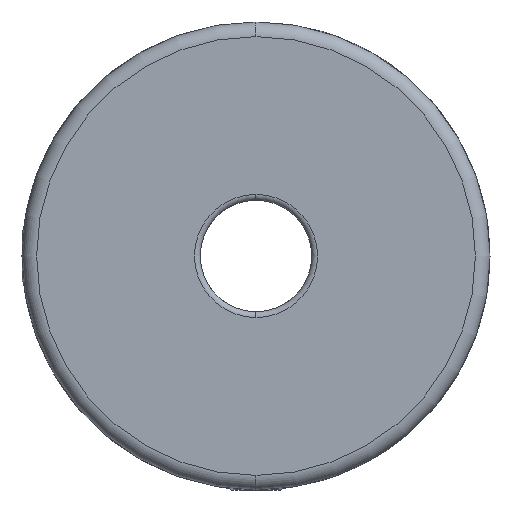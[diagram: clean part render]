
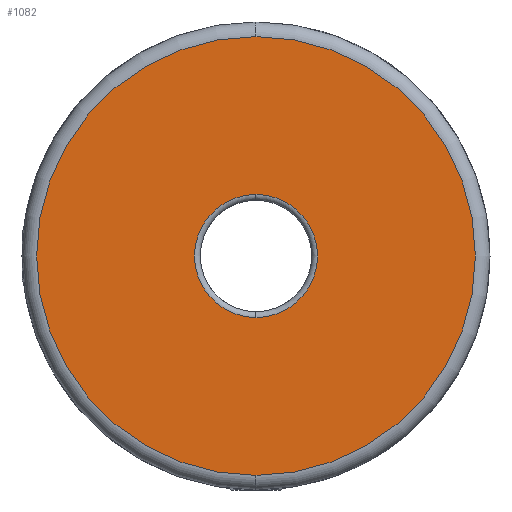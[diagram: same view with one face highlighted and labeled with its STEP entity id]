
A CAD part, left-side view. The second image highlights one B-rep face of the part: STEP entity #1082.
In plain terms, the highlighted planar face has unit normal (-1, 0, 0).
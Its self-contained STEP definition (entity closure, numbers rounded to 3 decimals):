
#2 = DIRECTION ( 'NONE',  ( -1., 0., 0. ) ) ;
#13 = CARTESIAN_POINT ( 'NONE',  ( -20.774, -10.179, 14.069 ) ) ;
#112 = FACE_OUTER_BOUND ( 'NONE', #864, .T. ) ;
#431 = AXIS2_PLACEMENT_3D ( 'NONE', #13, #2, #4391 ) ;
#441 = AXIS2_PLACEMENT_3D ( 'NONE', #2871, #4373, #4367 ) ;
#533 = VERTEX_POINT ( 'NONE', #1237 ) ;
#573 = AXIS2_PLACEMENT_3D ( 'NONE', #1023, #1019, #1000 ) ;
#629 = CARTESIAN_POINT ( 'NONE',  ( -20.774, -10.179, 32.819 ) ) ;
#864 = EDGE_LOOP ( 'NONE', ( #3762, #3590 ) ) ;
#888 = ORIENTED_EDGE ( 'NONE', *, *, #3258, .T. ) ;
#1000 = DIRECTION ( 'NONE',  ( 0., 0., -1. ) ) ;
#1019 = DIRECTION ( 'NONE',  ( 1., 0., 0. ) ) ;
#1023 = CARTESIAN_POINT ( 'NONE',  ( -20.774, -10.179, 14.069 ) ) ;
#1082 = ADVANCED_FACE ( 'NONE', ( #1616, #112 ), #3294, .F. ) ;
#1161 = EDGE_LOOP ( 'NONE', ( #3138, #888 ) ) ;
#1237 = CARTESIAN_POINT ( 'NONE',  ( -20.774, -10.179, 8.806 ) ) ;
#1312 = CIRCLE ( 'NONE', #4337, 18.75 ) ;
#1339 = CIRCLE ( 'NONE', #441, 5.263 ) ;
#1484 = VERTEX_POINT ( 'NONE', #2526 ) ;
#1572 = DIRECTION ( 'NONE',  ( 0., 0., -1. ) ) ;
#1579 = DIRECTION ( 'NONE',  ( -1., 0., 0. ) ) ;
#1583 = CARTESIAN_POINT ( 'NONE',  ( -20.774, -10.179, 14.069 ) ) ;
#1616 = FACE_BOUND ( 'NONE', #1161, .T. ) ;
#1619 = AXIS2_PLACEMENT_3D ( 'NONE', #3252, #3236, #3224 ) ;
#2141 = VERTEX_POINT ( 'NONE', #629 ) ;
#2454 = CIRCLE ( 'NONE', #431, 18.75 ) ;
#2526 = CARTESIAN_POINT ( 'NONE',  ( -20.774, -10.179, -4.681 ) ) ;
#2871 = CARTESIAN_POINT ( 'NONE',  ( -20.774, -10.179, 14.069 ) ) ;
#2996 = EDGE_CURVE ( 'NONE', #533, #3410, #3924, .T. ) ;
#3138 = ORIENTED_EDGE ( 'NONE', *, *, #2996, .T. ) ;
#3224 = DIRECTION ( 'NONE',  ( 0., 0., -1. ) ) ;
#3236 = DIRECTION ( 'NONE',  ( 1., 0., 0. ) ) ;
#3248 = EDGE_CURVE ( 'NONE', #1484, #2141, #2454, .T. ) ;
#3252 = CARTESIAN_POINT ( 'NONE',  ( -20.774, -10.179, 14.069 ) ) ;
#3258 = EDGE_CURVE ( 'NONE', #3410, #533, #1339, .T. ) ;
#3294 = PLANE ( 'NONE',  #1619 ) ;
#3410 = VERTEX_POINT ( 'NONE', #3621 ) ;
#3590 = ORIENTED_EDGE ( 'NONE', *, *, #4225, .T. ) ;
#3621 = CARTESIAN_POINT ( 'NONE',  ( -20.774, -10.179, 19.331 ) ) ;
#3762 = ORIENTED_EDGE ( 'NONE', *, *, #3248, .T. ) ;
#3924 = CIRCLE ( 'NONE', #573, 5.263 ) ;
#4225 = EDGE_CURVE ( 'NONE', #2141, #1484, #1312, .T. ) ;
#4337 = AXIS2_PLACEMENT_3D ( 'NONE', #1583, #1579, #1572 ) ;
#4367 = DIRECTION ( 'NONE',  ( 0., 0., -1. ) ) ;
#4373 = DIRECTION ( 'NONE',  ( 1., 0., 0. ) ) ;
#4391 = DIRECTION ( 'NONE',  ( 0., 0., -1. ) ) ;
